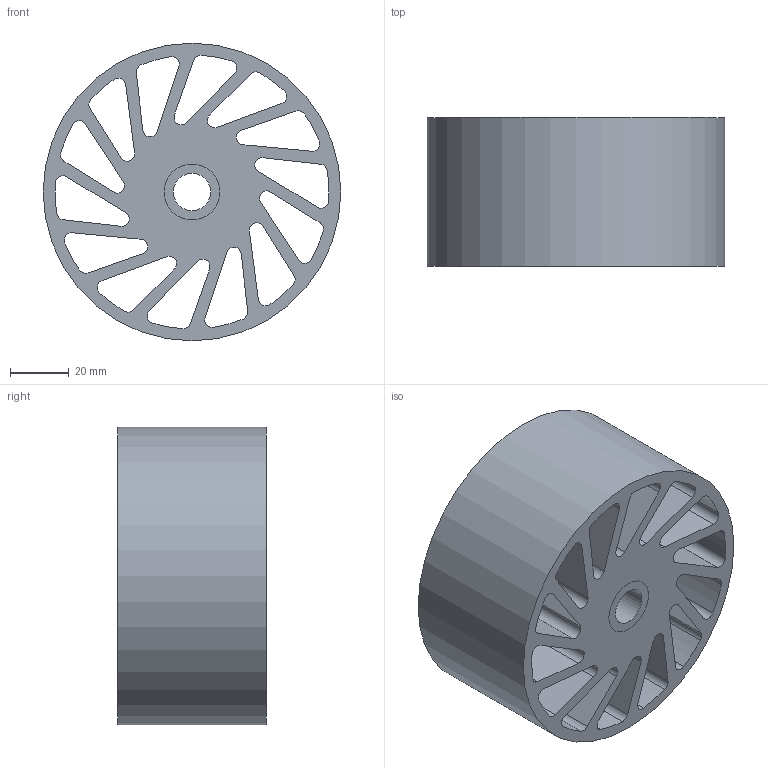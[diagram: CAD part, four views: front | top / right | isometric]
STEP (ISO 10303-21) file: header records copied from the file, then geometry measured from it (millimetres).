
FILE_DESCRIPTION(/* description */ (''),/* implementation_level */ '2;1');
FILE_NAME(/* name */ 'C:\Users\Owner\Desktop\Meridian Stuff\Oilite\NCWOB-400-XXX.stp',/* time_stamp */ '2023-05-22T17:02:12-05:00',/* author */ ('ASG'),/* organization */ ('Meridian Laboratory '),/* preprocessor_version */ 'ST-DEVELOPER v19',/* originating_system */ 'Autodesk Inventor 2023',/* authorisation */ '');
FILE_SCHEMA (('AUTOMOTIVE_DESIGN { 1 0 10303 214 3 1 1 }'));
Length unit declared in the file: inch
Products named in the file (1): NCWOB-340-XXX
Bounding box: 101.6 x 50.8 x 101.6 mm (x, y, z)
Volume: 224460.1 mm3; surface area: 82367.1 mm2
Topology: 2 solids, 2 shells, 92 faces, 264 edges, 176 vertices
Faces by surface type: cylinder 60, plane 32
Full cylindrical faces by diameter (mm): 12.738 x1, 19.05 x2, 101.6 x1
Entity records: 3285 total; most frequent: DIRECTION 570, CARTESIAN_POINT 533, ORIENTED_EDGE 528, EDGE_CURVE 264, AXIS2_PLACEMENT_3D 213, VERTEX_POINT 176, LINE 144, VECTOR 144
